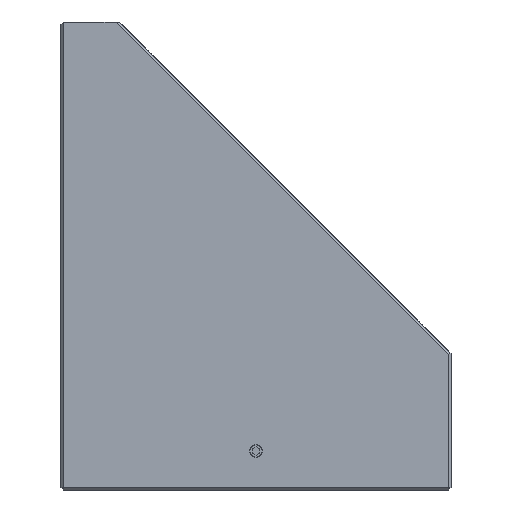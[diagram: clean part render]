
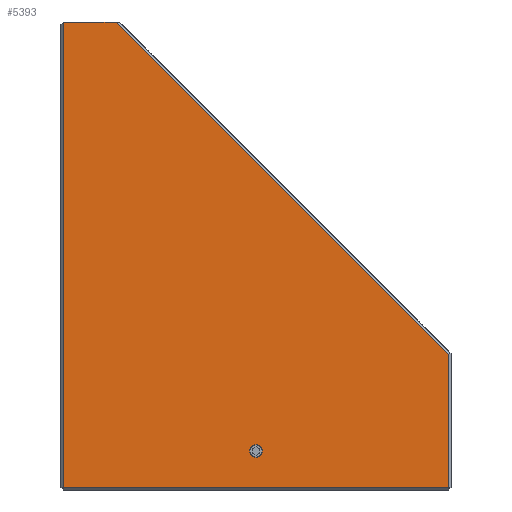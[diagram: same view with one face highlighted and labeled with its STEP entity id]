
A CAD part, left-side view. The second image highlights one B-rep face of the part: STEP entity #5393.
In plain terms, the highlighted planar face has unit normal (-1, 0, 0).
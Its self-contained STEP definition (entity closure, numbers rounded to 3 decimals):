
#35 = VERTEX_POINT ( 'NONE', #5250 ) ;
#98 = EDGE_CURVE ( 'NONE', #7239, #570, #6415, .T. ) ;
#270 = FACE_BOUND ( 'NONE', #6935, .T. ) ;
#321 = CARTESIAN_POINT ( 'NONE',  ( -25., 162.491, 113.37 ) ) ;
#426 = CARTESIAN_POINT ( 'NONE',  ( -25., 187.491, 118.07 ) ) ;
#570 = VERTEX_POINT ( 'NONE', #7040 ) ;
#1147 = CARTESIAN_POINT ( 'NONE',  ( -25., 212.191, 113.07 ) ) ;
#1176 = ORIENTED_EDGE ( 'NONE', *, *, #3560, .F. ) ;
#1439 = LINE ( 'NONE', #2548, #2655 ) ;
#1526 = DIRECTION ( 'NONE',  ( -1., 0., 0. ) ) ;
#1592 = CARTESIAN_POINT ( 'NONE',  ( -25., 205.415, 173.07 ) ) ;
#1656 = VERTEX_POINT ( 'NONE', #1592 ) ;
#1858 = ORIENTED_EDGE ( 'NONE', *, *, #4633, .F. ) ;
#1958 = ORIENTED_EDGE ( 'NONE', *, *, #6180, .F. ) ;
#2001 = FACE_OUTER_BOUND ( 'NONE', #7194, .T. ) ;
#2077 = PLANE ( 'NONE',  #2123 ) ;
#2080 = VECTOR ( 'NONE', #3878, 1000. ) ;
#2123 = AXIS2_PLACEMENT_3D ( 'NONE', #5447, #4993, #6761 ) ;
#2508 = LINE ( 'NONE', #7125, #7445 ) ;
#2548 = CARTESIAN_POINT ( 'NONE',  ( -25., 205.203, 172.858 ) ) ;
#2655 = VECTOR ( 'NONE', #6746, 1000. ) ;
#2877 = VERTEX_POINT ( 'NONE', #3580 ) ;
#3351 = LINE ( 'NONE', #321, #2080 ) ;
#3369 = DIRECTION ( 'NONE',  ( 0., 0., 1. ) ) ;
#3479 = DIRECTION ( 'NONE',  ( 0., 0., -1. ) ) ;
#3560 = EDGE_CURVE ( 'NONE', #4226, #35, #6413, .T. ) ;
#3580 = CARTESIAN_POINT ( 'NONE',  ( -25., 162.791, 130.446 ) ) ;
#3747 = ORIENTED_EDGE ( 'NONE', *, *, #4345, .T. ) ;
#3809 = LINE ( 'NONE', #6163, #7255 ) ;
#3855 = CARTESIAN_POINT ( 'NONE',  ( -25., 212.191, 173.07 ) ) ;
#3860 = DIRECTION ( 'NONE',  ( 0., 0., 1. ) ) ;
#3878 = DIRECTION ( 'NONE',  ( 0., -1., 0. ) ) ;
#4053 = AXIS2_PLACEMENT_3D ( 'NONE', #426, #5098, #3369 ) ;
#4226 = VERTEX_POINT ( 'NONE', #7191 ) ;
#4345 = EDGE_CURVE ( 'NONE', #570, #4611, #3351, .T. ) ;
#4477 = ORIENTED_EDGE ( 'NONE', *, *, #7041, .T. ) ;
#4611 = VERTEX_POINT ( 'NONE', #7376 ) ;
#4633 = EDGE_CURVE ( 'NONE', #35, #4226, #6392, .T. ) ;
#4892 = DIRECTION ( 'NONE',  ( 0., 0., 1. ) ) ;
#4925 = EDGE_CURVE ( 'NONE', #4611, #2877, #3809, .T. ) ;
#4993 = DIRECTION ( 'NONE',  ( -1., 0., 0. ) ) ;
#5098 = DIRECTION ( 'NONE',  ( -1., 0., 0. ) ) ;
#5250 = CARTESIAN_POINT ( 'NONE',  ( -25., 187.491, 117.27 ) ) ;
#5393 = ADVANCED_FACE ( 'NONE', ( #270, #2001 ), #2077, .T. ) ;
#5447 = CARTESIAN_POINT ( 'NONE',  ( -25., 187.491, 0. ) ) ;
#5743 = CARTESIAN_POINT ( 'NONE',  ( -25., 187.491, 118.07 ) ) ;
#6163 = CARTESIAN_POINT ( 'NONE',  ( -25., 162.791, 130.57 ) ) ;
#6180 = EDGE_CURVE ( 'NONE', #7239, #1656, #2508, .T. ) ;
#6232 = VECTOR ( 'NONE', #3479, 1000. ) ;
#6346 = ORIENTED_EDGE ( 'NONE', *, *, #4925, .T. ) ;
#6392 = CIRCLE ( 'NONE', #4053, 0.8 ) ;
#6413 = CIRCLE ( 'NONE', #7401, 0.8 ) ;
#6415 = LINE ( 'NONE', #1147, #6232 ) ;
#6746 = DIRECTION ( 'NONE',  ( 0., 0.707, 0.707 ) ) ;
#6761 = DIRECTION ( 'NONE',  ( 0., 0., 1. ) ) ;
#6935 = EDGE_LOOP ( 'NONE', ( #1176, #1858 ) ) ;
#7040 = CARTESIAN_POINT ( 'NONE',  ( -25., 212.191, 113.37 ) ) ;
#7041 = EDGE_CURVE ( 'NONE', #2877, #1656, #1439, .T. ) ;
#7125 = CARTESIAN_POINT ( 'NONE',  ( -25., 212.491, 173.07 ) ) ;
#7191 = CARTESIAN_POINT ( 'NONE',  ( -25., 187.491, 118.87 ) ) ;
#7194 = EDGE_LOOP ( 'NONE', ( #6346, #4477, #1958, #7557, #3747 ) ) ;
#7239 = VERTEX_POINT ( 'NONE', #3855 ) ;
#7241 = DIRECTION ( 'NONE',  ( 0., -1., 0. ) ) ;
#7255 = VECTOR ( 'NONE', #4892, 1000. ) ;
#7376 = CARTESIAN_POINT ( 'NONE',  ( -25., 162.791, 113.37 ) ) ;
#7401 = AXIS2_PLACEMENT_3D ( 'NONE', #5743, #1526, #3860 ) ;
#7445 = VECTOR ( 'NONE', #7241, 1000. ) ;
#7557 = ORIENTED_EDGE ( 'NONE', *, *, #98, .T. ) ;
